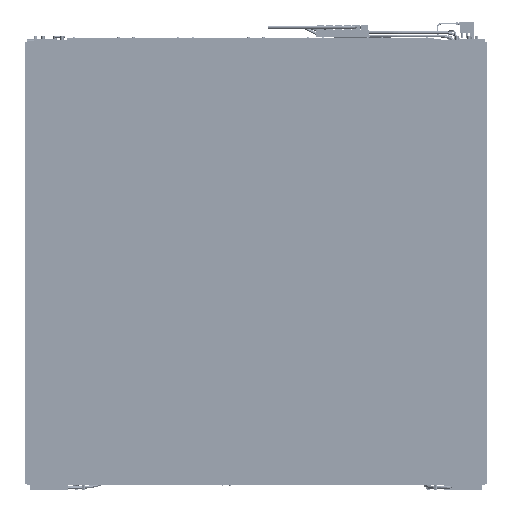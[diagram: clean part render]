
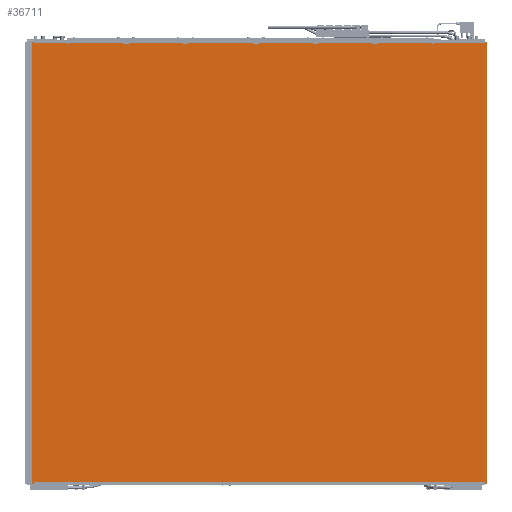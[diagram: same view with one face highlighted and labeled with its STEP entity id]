
A CAD part, front view. The second image highlights one B-rep face of the part: STEP entity #36711.
In plain terms, the highlighted planar face has unit normal (0, -1, 0).
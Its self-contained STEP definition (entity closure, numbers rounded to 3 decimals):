
#36711=ADVANCED_FACE('',(#57691),#48631,.T.);
#48631=PLANE('',#241379);
#57691=FACE_OUTER_BOUND('',#70352,.T.);
#70352=EDGE_LOOP('',(#100282,#100283,#100284,#100285));
#100282=ORIENTED_EDGE('',*,*,#174609,.F.);
#100283=ORIENTED_EDGE('',*,*,#174610,.F.);
#100284=ORIENTED_EDGE('',*,*,#174611,.F.);
#100285=ORIENTED_EDGE('',*,*,#174612,.F.);
#151411=VERTEX_POINT('',#347255);
#151412=VERTEX_POINT('',#347256);
#151413=VERTEX_POINT('',#347258);
#151414=VERTEX_POINT('',#347260);
#174609=EDGE_CURVE('',#151411,#151412,#202539,.T.);
#174610=EDGE_CURVE('',#151413,#151411,#202540,.T.);
#174611=EDGE_CURVE('',#151414,#151413,#202541,.T.);
#174612=EDGE_CURVE('',#151412,#151414,#202542,.T.);
#202539=LINE('',#347254,#221708);
#202540=LINE('',#347257,#221709);
#202541=LINE('',#347259,#221710);
#202542=LINE('',#347261,#221711);
#221708=VECTOR('',#273745,1.);
#221709=VECTOR('',#273746,1.);
#221710=VECTOR('',#273747,1.);
#221711=VECTOR('',#273748,1.);
#241379=AXIS2_PLACEMENT_3D('',#347262,#273749,#273750);
#273745=DIRECTION('',(1.,0.,0.));
#273746=DIRECTION('',(0.,0.,1.));
#273747=DIRECTION('',(-1.,0.,0.));
#273748=DIRECTION('',(0.,0.,-1.));
#273749=DIRECTION('',(0.,-1.,0.));
#273750=DIRECTION('',(-1.,0.,0.));
#347254=CARTESIAN_POINT('',(-1387.7,-7364.25,-1428.518));
#347255=CARTESIAN_POINT('',(-2672.7,-7364.25,-1428.518));
#347256=CARTESIAN_POINT('',(-102.7,-7364.25,-1428.518));
#347257=CARTESIAN_POINT('',(-2672.7,-7364.25,-2676.518));
#347258=CARTESIAN_POINT('',(-2672.7,-7364.25,-3924.518));
#347259=CARTESIAN_POINT('',(-1387.7,-7364.25,-3924.518));
#347260=CARTESIAN_POINT('',(-102.7,-7364.25,-3924.518));
#347261=CARTESIAN_POINT('',(-102.7,-7364.25,-2676.518));
#347262=CARTESIAN_POINT('',(-102.7,-7364.25,-1428.518));
